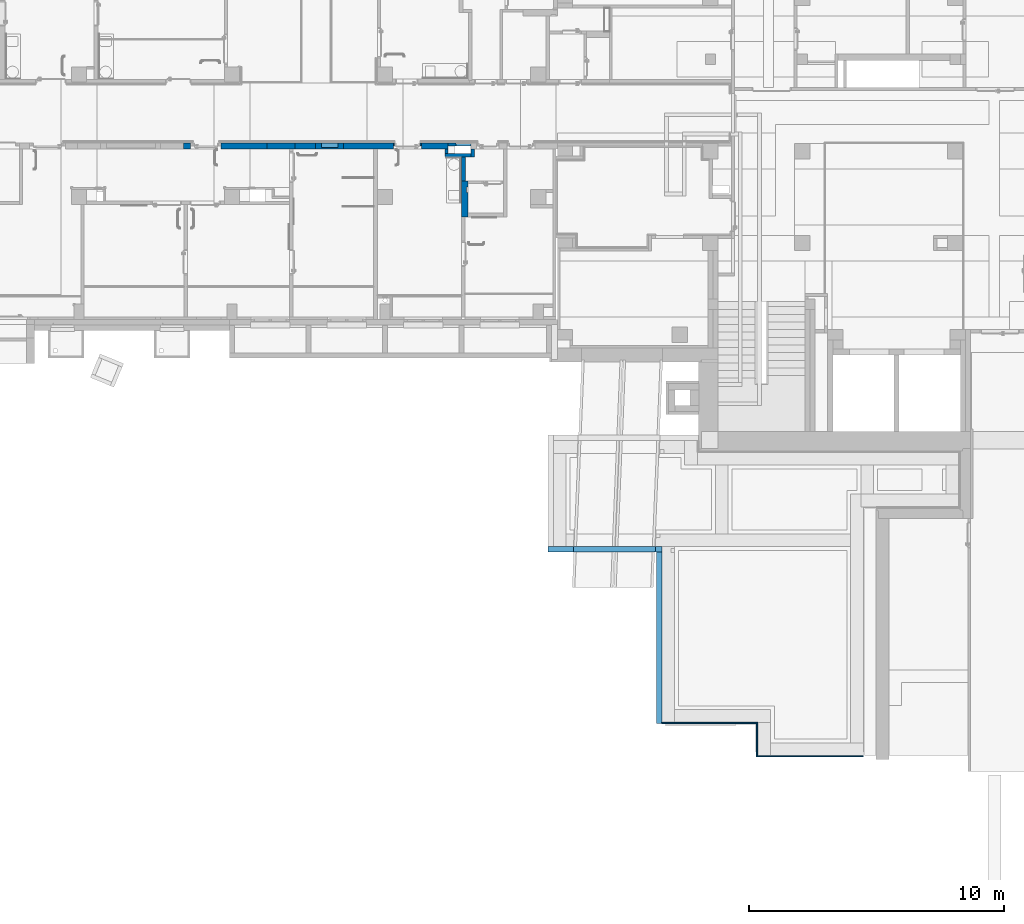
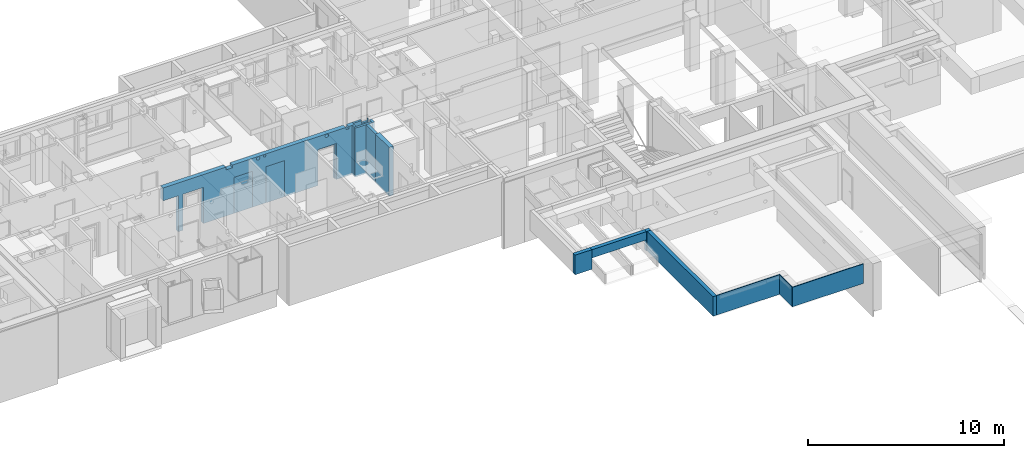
# One storey, part 14 of 84: 17 walls, 16 openings.
"""IFC4 building model written with IfcOpenShell, lengths in metres."""

import ifcopenshell
import ifcopenshell.guid

model = None  # the IFC model being written
_history = None  # IfcOwnerHistory: only IFC2X3 demands one
_inside = {}  # id of a spatial element -> (the spatial element, [elements in it])
_under = {}  # id of a project, library or spatial element -> (it, [spatial elements below it])
_declared = {}  # id of a project -> (the project, [libraries it declares])
_typed = {}  # id of a type object -> (the type object, [elements of that type])
_made_of = {}  # id of a material, layer set ... -> (it, [elements and type objects made of it])


def new_model(schema):
    """Start an empty IFC model of exactly this schema.

    Asked for "IFC4X3", IfcOpenShell would pick the latest addendum, in which some entities
    have other attributes; the version numbers below select the first issue.
    IFC2X3 requires an IfcOwnerHistory on every rooted entity: one is made here for all.
    """
    global model, _history
    if schema == "IFC4X3":
        model = ifcopenshell.file(schema_version=(4, 3, 0, 0))
    else:
        model = ifcopenshell.file(schema=schema)
    _inside.clear()
    _under.clear()
    _declared.clear()
    _typed.clear()
    _made_of.clear()
    _history = None
    if model.schema == "IFC2X3":
        org = make("IfcOrganization", Name="unknown")
        user = make(
            "IfcPersonAndOrganization",
            ThePerson=make("IfcPerson", FamilyName="unknown"),
            TheOrganization=org,
        )
        app = make(
            "IfcApplication",
            ApplicationDeveloper=org,
            Version="unknown",
            ApplicationFullName="unknown",
            ApplicationIdentifier="unknown",
        )
        _history = make(
            "IfcOwnerHistory",
            OwningUser=user,
            OwningApplication=app,
            ChangeAction="ADDED",
            CreationDate=0,
        )
    return model


def make(cls, **values):
    """One entity of the class cls with the attributes given. An attribute that is None is left unset."""
    return model.create_entity(
        cls, **{name: value for name, value in values.items() if value is not None}
    )


def entity(cls, *values):
    """Any entity or typed value of the class cls, its attributes in the order of the schema. None: left unset."""
    e = model.create_entity(cls)
    for i, value in enumerate(values):
        if value is not None:
            e[i] = value
    return e


def rooted(cls, **values):
    """An entity with a GlobalId (a new one), such as an element, a storey or a relation."""
    return make(cls, GlobalId=ifcopenshell.guid.new(), OwnerHistory=_history, **values)


def si_unit(unit_type, name, prefix=None):
    """IfcSIUnit, for example si_unit("LENGTHUNIT", "METRE", prefix="MILLI")."""
    return make("IfcSIUnit", UnitType=unit_type, Prefix=prefix, Name=name)


def converted_unit(unit_type, name, factor, base, dimensions=None, offset=None):
    """IfcConversionBasedUnit, such as the inch: factor (a typed value) times the base unit."""
    return make(
        "IfcConversionBasedUnit"
        if offset is None
        else "IfcConversionBasedUnitWithOffset",
        ConversionOffset=offset,
        Dimensions=None
        if dimensions is None
        else entity("IfcDimensionalExponents", *dimensions),
        UnitType=unit_type,
        Name=name,
        ConversionFactor=make(
            "IfcMeasureWithUnit", ValueComponent=factor, UnitComponent=base
        ),
    )


def derived_unit(unit_type, elements):
    """IfcDerivedUnit: a product of units, each with its exponent."""
    return make(
        "IfcDerivedUnit",
        Elements=[
            make("IfcDerivedUnitElement", Unit=unit, Exponent=power)
            for unit, power in elements
        ],
        UnitType=unit_type,
    )


def assignment(units):
    """IfcUnitAssignment: the units of a project."""
    return None if units is None else make("IfcUnitAssignment", Units=units)


def point(xyz):
    """IfcCartesianPoint."""
    return None if xyz is None else make("IfcCartesianPoint", Coordinates=xyz)


def direction(xyz):
    """IfcDirection."""
    return None if xyz is None else make("IfcDirection", DirectionRatios=xyz)


def frame(location, z_axis=None, x_axis=None):
    """IfcAxis2Placement3D, a coordinate frame: its origin and axes. An axis left out is left unset."""
    return make(
        "IfcAxis2Placement3D",
        Location=point(location),
        Axis=direction(z_axis),
        RefDirection=direction(x_axis),
    )


def frame_2d(location, x_axis=None):
    """IfcAxis2Placement2D, a coordinate frame in the plane: its origin and x axis."""
    return make(
        "IfcAxis2Placement2D", Location=point(location), RefDirection=direction(x_axis)
    )


def origin():
    """The frame at (0, 0, 0) with its axes left unset."""
    return frame((0.0, 0.0, 0.0))


def origin_with_axes():
    """The frame at (0, 0, 0) with the z axis (0, 0, 1) and the x axis (1, 0, 0) written out."""
    return frame((0.0, 0.0, 0.0), z_axis=(0.0, 0.0, 1.0), x_axis=(1.0, 0.0, 0.0))


def place(relative_to, where):
    """IfcLocalPlacement: puts the frame where relative to a parent placement (None: the world)."""
    return make(
        "IfcLocalPlacement", PlacementRelTo=relative_to, RelativePlacement=where
    )


def context(
    kind, dimensions, precision=None, world=None, true_north=None, identifier=None
):
    """IfcGeometricRepresentationContext, for example the 3D "Model" context."""
    return make(
        "IfcGeometricRepresentationContext",
        ContextIdentifier=identifier,
        ContextType=kind,
        CoordinateSpaceDimension=dimensions,
        Precision=precision,
        WorldCoordinateSystem=world,
        TrueNorth=true_north,
    )


def subcontext(parent, identifier, kind, view, scale=None):
    """IfcGeometricRepresentationSubContext, for example "Body" below "Model"."""
    return make(
        "IfcGeometricRepresentationSubContext",
        ContextIdentifier=identifier,
        ContextType=kind,
        ParentContext=parent,
        TargetScale=scale,
        TargetView=view,
    )


def project(units=None, contexts=None):
    """IfcProject with its units and contexts."""
    return rooted(
        "IfcProject",
        Name="project",
        RepresentationContexts=contexts,
        UnitsInContext=assignment(units),
    )


def spatial(cls, under=None, at=None, **own):
    """A site, building, storey or space (cls), placed at a placement, below another one or the project."""
    s = rooted(cls, ObjectPlacement=at, **own)
    if under is not None:
        _under.setdefault(under.id(), (under, []))[1].append(s)
    return s


def polyline(points):
    """IfcPolyline through the points."""
    return make("IfcPolyline", Points=[point(p) for p in points])


def profile(cls, at=None, kind="AREA", **sizes):
    """A parametric profile (cls). Its sizes go by their IFC names, for example OverallWidth=200.0."""
    return make(cls, ProfileType=kind, Position=at, **sizes)


def rectangle(**sizes):
    """IfcRectangleProfileDef."""
    return profile("IfcRectangleProfileDef", **sizes)


def outline(outer, holes=None, kind="AREA"):
    """IfcArbitraryClosedProfileDef: a profile drawn as a closed curve; with holes, ...WithVoids."""
    if holes is None:
        return make("IfcArbitraryClosedProfileDef", ProfileType=kind, OuterCurve=outer)
    return make(
        "IfcArbitraryProfileDefWithVoids",
        ProfileType=kind,
        OuterCurve=outer,
        InnerCurves=holes,
    )


def extrude(swept, where, along, depth):
    """IfcExtrudedAreaSolid: the profile swept, set in the frame where, extruded along a direction by depth."""
    return make(
        "IfcExtrudedAreaSolid",
        SweptArea=swept,
        Position=where,
        ExtrudedDirection=direction(along),
        Depth=depth,
    )


def shape(context_of_items, identifier, shape_type, items):
    """IfcShapeRepresentation: the items that make up one representation, for example the "Body"."""
    return make(
        "IfcShapeRepresentation",
        ContextOfItems=context_of_items,
        RepresentationIdentifier=identifier,
        RepresentationType=shape_type,
        Items=items,
    )


def material(Name=None, Category=None):
    """IfcMaterial."""
    return make("IfcMaterial", Name=Name, Category=Category)


def layer(
    of_material, thickness, ventilated=None, Name=None, Category=None, Priority=None
):
    """IfcMaterialLayer: one layer of a wall or slab, of a material (None: an air gap)."""
    return make(
        "IfcMaterialLayer",
        Material=of_material,
        LayerThickness=thickness,
        IsVentilated=ventilated,
        Name=Name,
        Category=Category,
        Priority=Priority,
    )


def layer_set(layers, Name=None):
    """IfcMaterialLayerSet."""
    return make("IfcMaterialLayerSet", MaterialLayers=layers, LayerSetName=Name)


def layer_usage(for_layer_set, set_direction, sense, offset, extent=None):
    """IfcMaterialLayerSetUsage: how a layer set lies in its element."""
    return make(
        "IfcMaterialLayerSetUsage",
        ForLayerSet=for_layer_set,
        LayerSetDirection=set_direction,
        DirectionSense=sense,
        OffsetFromReferenceLine=offset,
        ReferenceExtent=extent,
    )


def made_of(thing, what):
    """Note that an element or type object is made of a material, layer set ...; save() writes the relation."""
    if what is not None:
        _made_of.setdefault(what.id(), (what, []))[1].append(thing)
    return thing


def element(
    cls,
    number,
    at=None,
    inside=None,
    cuts=None,
    type_object=None,
    material=None,
    context=None,
    identifier="Body",
    shape_type=None,
    held_by="IfcProductDefinitionShape",
    body=None,
    shapes=None,
    **own,
):
    """One element of the class cls, such as IfcWall. Its Tag is "e" and its number.

    at: its placement. inside: the storey or other place that contains it. cuts: it is an
    opening in that element (IfcRelVoidsElement). A single representation is given by context,
    identifier, shape_type and body (its items); several are given by shapes. held_by: the class
    of the entity that holds the representations. save() writes the other relations.
    """
    e = rooted(cls, Tag="e%d" % number, ObjectPlacement=at, **own)
    if body is not None:
        shapes = [shape(context, identifier, shape_type, body)]
    if shapes is not None:
        e.Representation = make(held_by, Representations=shapes)
    if inside is not None:
        _inside.setdefault(inside.id(), (inside, []))[1].append(e)
    if cuts is not None:
        rooted(
            "IfcRelVoidsElement", RelatingBuildingElement=cuts, RelatedOpeningElement=e
        )
    if type_object is not None:
        _typed.setdefault(type_object.id(), (type_object, []))[1].append(e)
    return made_of(e, material)


def aggregate(whole, parts):
    """IfcRelAggregates: a whole, such as a stair, and the parts it consists of."""
    return rooted("IfcRelAggregates", RelatingObject=whole, RelatedObjects=parts)


def save(model, path):
    """Write the relations noted so far, then the file.

    IfcRelAggregates (storeys below a building ...), IfcRelContainedInSpatialStructure (elements
    in a storey), IfcRelDefinesByType, IfcRelAssociatesMaterial and IfcRelDeclares: one each for
    every whole, place, type object, material and project.
    """
    for whole, parts in _under.values():
        aggregate(whole, parts)
    for where, things in _inside.values():
        rooted(
            "IfcRelContainedInSpatialStructure",
            RelatedElements=things,
            RelatingStructure=where,
        )
    for kind, things in _typed.values():
        rooted("IfcRelDefinesByType", RelatedObjects=things, RelatingType=kind)
    for what, things in _made_of.values():
        rooted("IfcRelAssociatesMaterial", RelatedObjects=things, RelatingMaterial=what)
    for by, libraries in _declared.values():
        rooted("IfcRelDeclares", RelatingContext=by, RelatedDefinitions=libraries)
    model.write(path)


model = new_model("IFC4")

# Units and contexts
model_context = context("Model", 3, precision=1e-05, world=origin())
body_context = subcontext(model_context, "Body", "Model", "MODEL_VIEW")
ifc_project = project(units=[si_unit("LENGTHUNIT", "METRE"), si_unit("AREAUNIT", "SQUARE_METRE"), si_unit("VOLUMEUNIT", "CUBIC_METRE"), si_unit("MASSUNIT", "GRAM", prefix="KILO"), converted_unit("PLANEANGLEUNIT", "DEGREE", entity("IfcPlaneAngleMeasure", 0.0174532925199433), si_unit("PLANEANGLEUNIT", "RADIAN"), dimensions=[0, 0, 0, 0, 0, 0, 0]), derived_unit("THERMALTRANSMITTANCEUNIT", [(si_unit("POWERUNIT", "WATT"), 1), (si_unit("THERMODYNAMICTEMPERATUREUNIT", "KELVIN"), -1), (si_unit("LENGTHUNIT", "METRE"), -2)]), derived_unit("VOLUMETRICFLOWRATEUNIT", [(si_unit("LENGTHUNIT", "METRE"), 3), (converted_unit("TIMEUNIT", "hour", entity("IfcTimeMeasure", 3600.0), si_unit("TIMEUNIT", "SECOND"), dimensions=[0, 0, 1, 0, 0, 0, 0]), -1), (si_unit("LENGTHUNIT", "METRE"), -1)])], contexts=[model_context])

# Site, building, storey
site_placement = place(None, origin())
site = spatial("IfcSite", under=ifc_project, at=site_placement, Name="3. ASŘ", CompositionType="ELEMENT")
building_placement = place(site_placement, origin())
building = spatial("IfcBuilding", under=site, at=building_placement, Name="Pavilon C", CompositionType="ELEMENT")
storey_placement = place(building_placement, frame((0.0, 0.0, -3.3)))
storey = spatial("IfcBuildingStorey", under=building, at=storey_placement, Name="Půdorys 1.PP", CompositionType="ELEMENT", Elevation=-3.3)

# Walls
ifc_material_1 = material(Name="ZDIVO Z CDm")
ifc_layer_1 = layer(ifc_material_1, 0.125)
ifc_layer_set_1 = layer_set([ifc_layer_1])
ifc_layer_usage_1 = layer_usage(ifc_layer_set_1, "AXIS2", "POSITIVE", 0.0)
wall_1_placement = place(storey_placement, frame((21.375, 7.275, -0.1), z_axis=(0.0, 0.0, 1.0), x_axis=(0.0, -1.0, 0.0)))
element("IfcWall", 1, at=wall_1_placement, inside=storey, material=ifc_layer_usage_1, Name="ZDIVO Z CDm", context=body_context, shape_type="SweptSolid", body=[
    extrude(rectangle(XDim=0.3, YDim=0.125, at=frame_2d((0.15, 0.0625), x_axis=(1.0, 0.0))), origin_with_axes(), (0.0, 0.0, 1.0), 3.05),
])
ifc_material_2 = material(Name="ZDIVO Z CDm")
ifc_layer_2 = layer(ifc_material_2, 0.125)
ifc_layer_set_2 = layer_set([ifc_layer_2])
ifc_layer_usage_2 = layer_usage(ifc_layer_set_2, "AXIS2", "POSITIVE", 0.0)
wall_2_placement = place(storey_placement, frame((21.375, 7.1, -0.1), z_axis=(0.0, 0.0, 1.0), x_axis=(-1.0, 0.0, 0.0)))
element("IfcWall", 2, at=wall_2_placement, inside=storey, material=ifc_layer_usage_2, Name="ZDIVO Z CDm", context=body_context, shape_type="SweptSolid", body=[
    extrude(rectangle(XDim=1.025, YDim=0.125, at=frame_2d((0.5125, 0.0625), x_axis=(1.0, 0.0))), origin_with_axes(), (0.0, 0.0, 1.0), 3.05),
])

# Wall, openings
ifc_material_3 = material(Name="ZDIVO Z CDm")
ifc_layer_3 = layer(ifc_material_3, 0.125)
ifc_layer_set_3 = layer_set([ifc_layer_3])
ifc_layer_usage_3 = layer_usage(ifc_layer_set_3, "AXIS2", "POSITIVE", 0.0)
wall_3_placement = place(storey_placement, frame((21.375, 7.525, -0.1), z_axis=(0.0, 0.0, 1.0), x_axis=(-1.0, 0.0, 0.0)))
wall_3 = element("IfcWall", 3, at=wall_3_placement, inside=storey, material=ifc_layer_usage_3, Name="ZDIVO Z CDm", context=body_context, shape_type="SweptSolid", body=[
    extrude(rectangle(XDim=0.9, YDim=0.125, at=frame_2d((0.45, 0.0625), x_axis=(1.0, 0.0))), origin_with_axes(), (0.0, 0.0, 1.0), 3.05),
])
opening_1_placement = place(wall_3_placement, frame((0.0149999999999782, 0.0, 2.88), z_axis=(0.0, 1.0, 0.0), x_axis=(0.0, 0.0, 1.0)))
element("IfcOpeningElement", 4, at=opening_1_placement, cuts=wall_3, Name="ZTI", ObjectType="Opening", context=body_context, shape_type="SweptSolid", body=[
    extrude(outline(polyline([(0.0, 0.37), (0.17, 0.37), (0.17, 0.0), (0.0, 0.0), (0.0, 0.37)])), origin_with_axes(), (0.0, 0.0, 1.0), 0.125),
])
opening_2_placement = place(wall_3_placement, frame((0.0, 0.0, 1.1), z_axis=(0.0, 1.0, 0.0), x_axis=(0.0, 0.0, 1.0)))
element("IfcOpeningElement", 5, at=opening_2_placement, cuts=wall_3, Name="Okenní otvor", ObjectType="Opening", context=body_context, shape_type="SweptSolid", body=[
    extrude(outline(polyline([(0.0, 0.6), (1.2, 0.6), (1.2, 0.0), (0.0, 0.0), (0.0, 0.6)])), origin_with_axes(), (0.0, 0.0, 1.0), 0.125),
])

# Wall
ifc_material_4 = material(Name="ZDIVO Z CDm")
ifc_layer_4 = layer(ifc_material_4, 0.125)
ifc_layer_set_4 = layer_set([ifc_layer_4])
ifc_layer_usage_4 = layer_usage(ifc_layer_set_4, "AXIS2", "POSITIVE", 0.0)
wall_4_placement = place(storey_placement, frame((20.475, 7.1, -0.1), z_axis=(0.0, 0.0, 1.0), x_axis=(0.0, 1.0, 0.0)))
element("IfcWall", 6, at=wall_4_placement, inside=storey, material=ifc_layer_usage_4, Name="ZDIVO Z CDm", context=body_context, shape_type="SweptSolid", body=[
    extrude(rectangle(XDim=0.175, YDim=0.125, at=frame_2d((0.0875, 0.0625), x_axis=(1.0, 0.0))), origin_with_axes(), (0.0, 0.0, 1.0), 3.05),
])

# Wall, openings
ifc_material_5 = material(Name="ZDIVO Z CDm")
ifc_layer_5 = layer(ifc_material_5, 0.25)
ifc_layer_set_5 = layer_set([ifc_layer_5])
ifc_layer_usage_5 = layer_usage(ifc_layer_set_5, "AXIS2", "POSITIVE", 0.0)
wall_5_placement = place(storey_placement, frame((20.475, 7.525, -0.1), z_axis=(0.0, 0.0, 1.0), x_axis=(-1.0, 0.0, 0.0)))
wall_5 = element("IfcWall", 7, at=wall_5_placement, inside=storey, material=ifc_layer_usage_5, Name="ZDIVO Z CDm", context=body_context, shape_type="SweptSolid", body=[
    extrude(rectangle(XDim=11.275, YDim=0.25, at=frame_2d((5.6375, 0.125), x_axis=(1.0, 0.0))), origin_with_axes(), (0.0, 0.0, 1.0), 3.05),
])
opening_3_placement = place(wall_5_placement, frame((6.0, 0.0, 0.0), z_axis=(0.0, 1.0, 0.0), x_axis=(0.0, 0.0, 1.0)))
element("IfcOpeningElement", 8, at=opening_3_placement, cuts=wall_5, Name="Dveřní otvor", ObjectType="Opening", context=body_context, shape_type="SweptSolid", body=[
    extrude(outline(polyline([(0.0, 1.1), (2.25, 1.1), (2.25, 0.0), (0.0, 0.0), (0.0, 1.1)])), origin_with_axes(), (0.0, 0.0, 1.0), 0.25),
])
opening_4_placement = place(wall_5_placement, frame((4.1, 0.0, 0.0), z_axis=(0.0, 1.0, 0.0), x_axis=(0.0, 0.0, 1.0)))
element("IfcOpeningElement", 9, at=opening_4_placement, cuts=wall_5, Name="Dveřní otvor", ObjectType="Opening", context=body_context, shape_type="SweptSolid", body=[
    extrude(outline(polyline([(0.0, 1.1), (2.25, 1.1), (2.25, 0.0), (0.0, 0.0), (0.0, 1.1)])), origin_with_axes(), (0.0, 0.0, 1.0), 0.25),
])
opening_5_placement = place(wall_5_placement, frame((10.375, 0.0, 0.0), z_axis=(0.0, 1.0, 0.0), x_axis=(0.0, 0.0, 1.0)))
element("IfcOpeningElement", 10, at=opening_5_placement, cuts=wall_5, Name="Dveřní otvor", ObjectType="Opening", context=body_context, shape_type="SweptSolid", body=[
    extrude(outline(polyline([(0.0, 0.9), (2.25, 0.9), (2.25, 0.0), (0.0, 0.0), (0.0, 0.9)])), origin_with_axes(), (0.0, 0.0, 1.0), 0.25),
])
opening_6_placement = place(wall_5_placement, frame((8.9, 0.0, 0.0), z_axis=(0.0, 1.0, 0.0), x_axis=(0.0, 0.0, 1.0)))
element("IfcOpeningElement", 11, at=opening_6_placement, cuts=wall_5, Name="Dveřní otvor", ObjectType="Opening", context=body_context, shape_type="SweptSolid", body=[
    extrude(outline(polyline([(0.0, 1.2), (2.25, 1.2), (2.25, 0.0), (0.0, 0.0), (0.0, 1.2)])), origin_with_axes(), (0.0, 0.0, 1.0), 0.25),
])
opening_7_placement = place(wall_5_placement, frame((7.55499999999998, 0.25, 2.88), z_axis=(0.0, -1.0, 0.0), x_axis=(0.0, 0.0, 1.0)))
element("IfcOpeningElement", 12, at=opening_7_placement, cuts=wall_5, Name="ZTI", ObjectType="Opening", context=body_context, shape_type="SweptSolid", body=[
    extrude(outline(polyline([(0.0, 0.37), (0.17, 0.37), (0.17, 0.0), (0.0, 0.0), (0.0, 0.37)])), origin_with_axes(), (0.0, 0.0, 1.0), 0.25),
])
opening_8_placement = place(wall_5_placement, frame((5.77390958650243, 0.25, 2.825), z_axis=(0.0, -1.0, 0.0), x_axis=(0.0, 0.0, 1.0)))
element("IfcOpeningElement", 13, at=opening_8_placement, cuts=wall_5, Name="VZT", ObjectType="Opening", context=body_context, shape_type="SweptSolid", body=[
    extrude(outline(polyline([(0.105, 0.0), (0.0940245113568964, 0.000575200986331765), (0.0831692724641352, 0.0022945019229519), (0.0725532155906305, 0.00513906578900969), (0.062292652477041, 0.00907772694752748), (0.0525, 0.0140673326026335), (0.0432825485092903, 0.0200532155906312), (0.0347412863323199, 0.0269697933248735), (0.0269697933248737, 0.0347412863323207), (0.0200532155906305, 0.0432825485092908), (0.014067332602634, 0.0525), (0.00907772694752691, 0.0622926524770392), (0.0051390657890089, 0.0725532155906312), (0.00229450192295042, 0.0831692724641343), (0.000575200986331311, 0.0940245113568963), (0.0, 0.105), (0.000575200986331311, 0.115975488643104), (0.00229450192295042, 0.126830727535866), (0.0051390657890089, 0.137446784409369), (0.00907772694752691, 0.147707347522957), (0.014067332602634, 0.1575), (0.0200532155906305, 0.166717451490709), (0.0269697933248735, 0.175258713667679), (0.0347412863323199, 0.183030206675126), (0.0432825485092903, 0.189946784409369), (0.0525, 0.195932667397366), (0.062292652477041, 0.200922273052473), (0.0725532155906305, 0.20486093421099), (0.0831692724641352, 0.20770549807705), (0.0940245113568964, 0.209424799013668), (0.105, 0.21), (0.115975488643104, 0.209424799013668), (0.126830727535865, 0.20770549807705), (0.137446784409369, 0.20486093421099), (0.147707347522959, 0.200922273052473), (0.1575, 0.195932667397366), (0.16671745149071, 0.189946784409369), (0.17525871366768, 0.183030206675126), (0.183030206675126, 0.175258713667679), (0.189946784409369, 0.166717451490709), (0.195932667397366, 0.1575), (0.200922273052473, 0.147707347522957), (0.204860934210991, 0.137446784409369), (0.20770549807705, 0.126830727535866), (0.209424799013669, 0.115975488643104), (0.21, 0.105), (0.209424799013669, 0.0940245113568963), (0.20770549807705, 0.0831692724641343), (0.204860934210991, 0.0725532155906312), (0.200922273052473, 0.0622926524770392), (0.195932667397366, 0.0525), (0.18994678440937, 0.0432825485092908), (0.183030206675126, 0.0347412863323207), (0.17525871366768, 0.0269697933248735), (0.16671745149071, 0.0200532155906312), (0.1575, 0.0140673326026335), (0.147707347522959, 0.00907772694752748), (0.13744678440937, 0.00513906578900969), (0.126830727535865, 0.0022945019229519), (0.115975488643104, 0.000575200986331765), (0.105, 0.0)])), origin_with_axes(), (0.0, 0.0, 1.0), 0.25),
])
opening_9_placement = place(wall_5_placement, frame((5.20807611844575, 0.0, 2.875), z_axis=(0.0, 1.0, 0.0), x_axis=(0.0, 0.0, 1.0)))
element("IfcOpeningElement", 14, at=opening_9_placement, cuts=wall_5, Name="CHL", ObjectType="Opening", context=body_context, shape_type="SweptSolid", body=[
    extrude(outline(polyline([(0.075, 0.15), (0.082839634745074, 0.149589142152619), (0.0905933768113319, 0.148361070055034), (0.0981762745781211, 0.146329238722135), (0.105505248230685, 0.143515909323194), (0.1125, 0.139951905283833), (0.119083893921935, 0.13567627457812), (0.125184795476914, 0.130735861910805), (0.130735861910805, 0.125184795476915), (0.135676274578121, 0.119083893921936), (0.139951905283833, 0.1125), (0.143515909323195, 0.105505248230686), (0.146329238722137, 0.0981762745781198), (0.148361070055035, 0.0905933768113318), (0.149589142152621, 0.0828396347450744), (0.15, 0.075), (0.149589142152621, 0.0671603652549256), (0.148361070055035, 0.0594066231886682), (0.146329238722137, 0.0518237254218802), (0.143515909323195, 0.0444947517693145), (0.139951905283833, 0.0374999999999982), (0.135676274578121, 0.0309161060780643), (0.130735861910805, 0.0248152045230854), (0.125184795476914, 0.0192641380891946), (0.119083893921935, 0.0143237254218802), (0.1125, 0.0100480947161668), (0.105505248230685, 0.00648409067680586), (0.0981762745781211, 0.00367076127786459), (0.0905933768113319, 0.00163892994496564), (0.082839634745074, 0.000410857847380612), (0.075, 0.0), (0.067160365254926, 0.000410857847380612), (0.0594066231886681, 0.00163892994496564), (0.0518237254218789, 0.00367076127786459), (0.044494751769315, 0.00648409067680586), (0.0375, 0.0100480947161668), (0.0309161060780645, 0.0143237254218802), (0.0248152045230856, 0.0192641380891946), (0.0192641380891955, 0.0248152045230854), (0.0143237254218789, 0.0309161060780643), (0.0100480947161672, 0.0374999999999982), (0.00648409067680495, 0.0444947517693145), (0.00367076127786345, 0.0518237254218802), (0.00163892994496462, 0.0594066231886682), (0.000410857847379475, 0.0671603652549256), (0.0, 0.075), (0.000410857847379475, 0.0828396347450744), (0.00163892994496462, 0.0905933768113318), (0.00367076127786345, 0.0981762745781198), (0.00648409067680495, 0.105505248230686), (0.0100480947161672, 0.1125), (0.0143237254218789, 0.119083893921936), (0.0192641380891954, 0.125184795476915), (0.0248152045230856, 0.130735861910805), (0.0309161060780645, 0.13567627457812), (0.0375, 0.139951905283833), (0.044494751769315, 0.143515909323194), (0.0518237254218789, 0.146329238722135), (0.0594066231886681, 0.148361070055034), (0.067160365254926, 0.149589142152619), (0.075, 0.15)])), origin_with_axes(), (0.0, 0.0, 1.0), 0.25),
])
opening_10_placement = place(wall_5_placement, frame((1.05, 0.0, 0.0), z_axis=(0.0, 1.0, 0.0), x_axis=(0.0, 0.0, 1.0)))
element("IfcOpeningElement", 15, at=opening_10_placement, cuts=wall_5, Name="Dveřní otvor", ObjectType="Opening", context=body_context, shape_type="SweptSolid", body=[
    extrude(outline(polyline([(0.0, 1.1), (2.25, 1.1), (2.25, 0.0), (0.0, 0.0), (0.0, 1.1)])), origin_with_axes(), (0.0, 0.0, 1.0), 0.25),
])
opening_11_placement = place(wall_5_placement, frame((1.71838553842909, 0.25, 2.825), z_axis=(0.0, -1.0, 0.0), x_axis=(0.0, 0.0, 1.0)))
element("IfcOpeningElement", 16, at=opening_11_placement, cuts=wall_5, Name="VZT", ObjectType="Opening", context=body_context, shape_type="SweptSolid", body=[
    extrude(outline(polyline([(0.105, 0.0), (0.0940245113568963, 0.000575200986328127), (0.0831692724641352, 0.0022945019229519), (0.0725532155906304, 0.00513906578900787), (0.062292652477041, 0.00907772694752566), (0.0525, 0.0140673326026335), (0.0432825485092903, 0.0200532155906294), (0.0347412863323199, 0.0269697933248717), (0.0269697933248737, 0.0347412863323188), (0.0200532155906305, 0.0432825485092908), (0.014067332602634, 0.0524999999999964), (0.00907772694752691, 0.062292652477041), (0.0051390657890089, 0.0725532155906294), (0.00229450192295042, 0.0831692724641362), (0.000575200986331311, 0.0940245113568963), (0.0, 0.105), (0.000575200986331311, 0.115975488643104), (0.00229450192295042, 0.126830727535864), (0.0051390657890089, 0.137446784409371), (0.00907772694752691, 0.147707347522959), (0.014067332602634, 0.1575), (0.0200532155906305, 0.166717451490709), (0.0269697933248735, 0.175258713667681), (0.0347412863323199, 0.183030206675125), (0.0432825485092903, 0.189946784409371), (0.0525, 0.195932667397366), (0.062292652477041, 0.200922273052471), (0.0725532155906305, 0.204860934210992), (0.0831692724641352, 0.207705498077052), (0.0940245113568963, 0.209424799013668), (0.105, 0.21), (0.115975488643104, 0.209424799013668), (0.126830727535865, 0.207705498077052), (0.137446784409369, 0.204860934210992), (0.147707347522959, 0.200922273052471), (0.1575, 0.195932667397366), (0.16671745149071, 0.189946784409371), (0.17525871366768, 0.183030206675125), (0.183030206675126, 0.175258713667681), (0.189946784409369, 0.166717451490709), (0.195932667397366, 0.1575), (0.200922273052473, 0.147707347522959), (0.204860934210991, 0.137446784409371), (0.20770549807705, 0.126830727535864), (0.209424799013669, 0.115975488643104), (0.21, 0.105), (0.209424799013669, 0.0940245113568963), (0.20770549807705, 0.0831692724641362), (0.204860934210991, 0.0725532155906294), (0.200922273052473, 0.062292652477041), (0.195932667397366, 0.0524999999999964), (0.189946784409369, 0.0432825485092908), (0.183030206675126, 0.0347412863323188), (0.17525871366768, 0.0269697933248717), (0.16671745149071, 0.0200532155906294), (0.1575, 0.0140673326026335), (0.147707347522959, 0.00907772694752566), (0.137446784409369, 0.00513906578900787), (0.126830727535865, 0.0022945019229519), (0.115975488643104, 0.000575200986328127), (0.105, 0.0)])), origin_with_axes(), (0.0, 0.0, 1.0), 0.25),
])
opening_12_placement = place(wall_5_placement, frame((0.493437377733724, 0.250000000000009, 2.9), z_axis=(0.0, -1.0, 0.0), x_axis=(0.0, 0.0, 1.0)))
element("IfcOpeningElement", 17, at=opening_12_placement, cuts=wall_5, Name="ZTI", ObjectType="Opening", context=body_context, shape_type="SweptSolid", body=[
    extrude(outline(polyline([(0.0, 0.175), (0.15, 0.175), (0.15, 0.0), (0.0, 0.0), (0.0, 0.175)])), origin_with_axes(), (0.0, 0.0, 1.0), 0.25),
])

# Walls
ifc_material_6 = material(Name="PERIMETR")
ifc_layer_6 = layer(ifc_material_6, 0.22)
ifc_layer_set_6 = layer_set([ifc_layer_6])
ifc_layer_usage_6 = layer_usage(ifc_layer_set_6, "AXIS2", "POSITIVE", 0.0)
wall_6_placement = place(storey_placement, frame((25.3845188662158, -8.30000000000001, 1.8), z_axis=(0.0, 0.0, 1.0), x_axis=(-1.0, 0.0, 0.0)))
element("IfcWall", 18, at=wall_6_placement, inside=storey, material=ifc_layer_usage_6, Name="PERIMETR", context=body_context, shape_type="SweptSolid", body=[
    extrude(outline(polyline([(-1.0045188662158, -0.22), (0.0, -0.22), (0.0, 0.0), (-0.99537403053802, 0.0), (-1.0045188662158, -0.22)])), frame((1.0045188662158, 0.22, 0.0), z_axis=(0.0, 0.0, 1.0), x_axis=(1.0, 0.0, 0.0)), (0.0, 0.0, 1.0), 1.22),
])
ifc_material_7 = material(Name="PERIMETR")
ifc_layer_7 = layer(ifc_material_7, 0.22)
ifc_layer_set_7 = layer_set([ifc_layer_7])
ifc_layer_usage_7 = layer_usage(ifc_layer_set_7, "AXIS2", "POSITIVE", 0.0)
wall_7_placement = place(storey_placement, frame((28.5972563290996, -8.30000000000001, 2.5), z_axis=(0.0, 0.0, 1.0), x_axis=(-1.0, 0.0, 0.0)))
element("IfcWall", 19, at=wall_7_placement, inside=storey, material=ifc_layer_usage_7, Name="PERIMETR", context=body_context, shape_type="SweptSolid", body=[
    extrude(outline(polyline([(-3.22188229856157, -0.22), (-0.0091448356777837, -0.22), (0.0, 0.0), (-3.21273746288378, 0.0), (-3.22188229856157, -0.22)])), frame((3.22188229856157, 0.22, 0.0), z_axis=(0.0, 0.0, 1.0), x_axis=(1.0, 0.0, 0.0)), (0.0, 0.0, 1.0), 0.52),
])
ifc_material_8 = material(Name="PERIMETR")
ifc_layer_8 = layer(ifc_material_8, 0.22)
ifc_layer_set_8 = layer_set([ifc_layer_8])
ifc_layer_usage_8 = layer_usage(ifc_layer_set_8, "AXIS2", "POSITIVE", 0.0)
wall_8_placement = place(storey_placement, frame((28.85, -8.30000000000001, 1.8), z_axis=(0.0, 0.0, 1.0), x_axis=(-1.0, 0.0, 0.0)))
element("IfcWall", 20, at=wall_8_placement, inside=storey, material=ifc_layer_usage_8, Name="PERIMETR", context=body_context, shape_type="SweptSolid", body=[
    extrude(outline(polyline([(-0.261888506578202, -0.22), (-0.0091448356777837, -0.22), (0.0, 0.0), (-0.261888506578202, 0.0), (-0.261888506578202, -0.22)])), frame((0.261888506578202, 0.22, 0.0), z_axis=(0.0, 0.0, 1.0), x_axis=(1.0, 0.0, 0.0)), (0.0, 0.0, 1.0), 1.22),
])
ifc_material_9 = material(Name="PERIMETR")
ifc_layer_9 = layer(ifc_material_9, 0.22)
ifc_layer_set_9 = layer_set([ifc_layer_9])
ifc_layer_usage_9 = layer_usage(ifc_layer_set_9, "AXIS2", "POSITIVE", 0.0)
wall_9_placement = place(storey_placement, frame((28.85, -15.245, 1.8), z_axis=(0.0, 0.0, 1.0), x_axis=(0.0, 1.0, 0.0)))
element("IfcWall", 21, at=wall_9_placement, inside=storey, material=ifc_layer_usage_9, Name="PERIMETR", context=body_context, shape_type="SweptSolid", body=[
    extrude(rectangle(XDim=6.725, YDim=0.22, at=frame_2d((3.3625, 0.11), x_axis=(1.0, 0.0))), origin_with_axes(), (0.0, 0.0, 1.0), 1.22),
])
ifc_material_10 = material(Name="PERIMETR")
ifc_layer_10 = layer(ifc_material_10, 0.05)
ifc_layer_set_10 = layer_set([ifc_layer_10])
ifc_layer_usage_10 = layer_usage(ifc_layer_set_10, "AXIS2", "POSITIVE", 0.0)
wall_10_placement = place(storey_placement, frame((32.555, -15.195, 1.8), z_axis=(0.0, 0.0, 1.0), x_axis=(-1.0, 0.0, 0.0)))
element("IfcWall", 22, at=wall_10_placement, inside=storey, material=ifc_layer_usage_10, Name="PERIMETR", context=body_context, shape_type="SweptSolid", body=[
    extrude(rectangle(XDim=3.705, YDim=0.05, at=frame_2d((1.8525, 0.025), x_axis=(1.0, 0.0))), origin_with_axes(), (0.0, 0.0, 1.0), 1.22),
])
ifc_material_11 = material(Name="PERIMETR")
ifc_layer_11 = layer(ifc_material_11, 0.05)
ifc_layer_set_11 = layer_set([ifc_layer_11])
ifc_layer_usage_11 = layer_usage(ifc_layer_set_11, "AXIS2", "POSITIVE", 0.0)
wall_11_placement = place(storey_placement, frame((32.605, -16.495, 1.8), z_axis=(0.0, 0.0, 1.0), x_axis=(0.0, 1.0, 0.0)))
element("IfcWall", 23, at=wall_11_placement, inside=storey, material=ifc_layer_usage_11, Name="PERIMETR", context=body_context, shape_type="SweptSolid", body=[
    extrude(rectangle(XDim=1.3, YDim=0.05, at=frame_2d((0.649999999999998, 0.025), x_axis=(1.0, 0.0))), origin_with_axes(), (0.0, 0.0, 1.0), 1.22),
])
ifc_material_12 = material(Name="PERIMETR")
ifc_layer_12 = layer(ifc_material_12, 0.05)
ifc_layer_set_12 = layer_set([ifc_layer_12])
ifc_layer_usage_12 = layer_usage(ifc_layer_set_12, "AXIS2", "POSITIVE", 0.0)
wall_12_placement = place(storey_placement, frame((36.75, -16.495, 1.8), z_axis=(0.0, 0.0, 1.0), x_axis=(-1.0, 0.0, 0.0)))
element("IfcWall", 24, at=wall_12_placement, inside=storey, material=ifc_layer_usage_12, Name="PERIMETR", context=body_context, shape_type="SweptSolid", body=[
    extrude(rectangle(XDim=4.195, YDim=0.05, at=frame_2d((2.0975, 0.025), x_axis=(1.0, 0.0))), origin_with_axes(), (0.0, 0.0, 1.0), 1.22),
])
ifc_material_13 = material(Name="YTONG 250")
ifc_layer_13 = layer(ifc_material_13, 0.25)
ifc_layer_set_13 = layer_set([ifc_layer_13])
ifc_layer_usage_13 = layer_usage(ifc_layer_set_13, "AXIS2", "POSITIVE", 0.0)
wall_13_placement = place(storey_placement, frame((13.375, 7.275, -0.1)))
element("IfcWall", 25, at=wall_13_placement, inside=storey, material=ifc_layer_usage_13, Name="YTONG 250", context=body_context, shape_type="SweptSolid", body=[
    extrude(rectangle(XDim=1.1, YDim=0.25, at=frame_2d((0.55, 0.125), x_axis=(1.0, 0.0))), origin_with_axes(), (0.0, 0.0, 1.0), 2.25),
])

# Wall, openings
ifc_material_14 = material(Name="YTONG 250")
ifc_layer_14 = layer(ifc_material_14, 0.25)
ifc_layer_set_14 = layer_set([ifc_layer_14])
ifc_layer_usage_14 = layer_usage(ifc_layer_set_14, "AXIS2", "POSITIVE", 0.0)
wall_14_placement = place(storey_placement, frame((15.275, 7.275, -0.1)))
wall_14 = element("IfcWall", 26, at=wall_14_placement, inside=storey, material=ifc_layer_usage_14, Name="YTONG 250", context=body_context, shape_type="SweptSolid", body=[
    extrude(rectangle(XDim=1.1, YDim=0.25, at=frame_2d((0.55, 0.125), x_axis=(1.0, 0.0))), origin_with_axes(), (0.0, 0.0, 1.0), 2.25),
])
opening_13_placement = place(wall_14_placement, frame((0.875, 0.25, 1.1), z_axis=(0.0, -1.0, 0.0), x_axis=(0.0, 0.0, 1.0)))
element("IfcOpeningElement", 27, at=opening_13_placement, cuts=wall_14, Name="Stěnová nika", ObjectType="Opening", context=body_context, shape_type="SweptSolid", body=[
    extrude(outline(polyline([(0.0, 0.65), (0.65, 0.65), (0.65, 0.0), (0.0, 0.0), (0.0, 0.65)])), origin_with_axes(), (0.0, 0.0, 1.0), 0.175),
])
opening_14_placement = place(wall_14_placement, frame((0.357249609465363, 0.0, 2.775), z_axis=(0.0, 1.0, 0.0), x_axis=(0.0, 0.0, 1.0)))
element("IfcOpeningElement", 28, at=opening_14_placement, cuts=wall_14, Name="VZT", ObjectType="Opening", context=body_context, shape_type="SweptSolid", body=[
    extrude(outline(polyline([(0.104999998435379, 0.0), (0.0940245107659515, 0.000575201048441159), (0.0831692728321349, 0.00229450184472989), (0.0725532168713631, 0.00513906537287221), (0.0622926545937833, 0.0090777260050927), (0.0525000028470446, 0.014067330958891), (0.0432825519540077, 0.0200532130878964), (0.0347412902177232, 0.0269697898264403), (0.0269697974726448, 0.0347412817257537), (0.0200532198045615, 0.0432825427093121), (0.0140673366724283, 0.0524999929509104), (0.00907773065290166, 0.0622926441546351), (0.00513906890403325, 0.0725532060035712), (0.00229450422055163, 0.0831692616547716), (0.000575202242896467, 0.0940244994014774), (0.0, 0.104999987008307), (0.000575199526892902, 0.115975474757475), (0.00229449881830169, 0.126830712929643), (0.00513906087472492, 0.137446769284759), (0.00907772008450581, 0.147707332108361), (0.0140673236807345, 0.157499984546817), (0.0200532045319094, 0.166717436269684), (0.0269697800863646, 0.175258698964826), (0.0347412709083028, 0.183030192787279), (0.043282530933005, 0.18994677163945), (0.0524999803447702, 0.195932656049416), (0.0622926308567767, 0.20092226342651), (0.0725531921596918, 0.204860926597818), (0.0831692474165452, 0.207705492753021), (0.0940244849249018, 0.209424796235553), (0.104999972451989, 0.21), (0.115975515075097, 0.209424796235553), (0.126830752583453, 0.207705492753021), (0.137446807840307, 0.204860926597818), (0.147707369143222, 0.20092226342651), (0.157500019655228, 0.195932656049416), (0.166717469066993, 0.18994677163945), (0.175258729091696, 0.183030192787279), (0.183030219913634, 0.175258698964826), (0.189946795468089, 0.166717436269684), (0.195932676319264, 0.157499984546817), (0.200922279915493, 0.147707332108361), (0.204860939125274, 0.137446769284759), (0.207705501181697, 0.126830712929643), (0.209424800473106, 0.115975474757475), (0.209999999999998, 0.104999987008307), (0.209424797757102, 0.0940244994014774), (0.207705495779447, 0.0831692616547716), (0.204860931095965, 0.0725532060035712), (0.200922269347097, 0.0622926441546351), (0.19593266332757, 0.0524999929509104), (0.189946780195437, 0.0432825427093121), (0.183030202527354, 0.0347412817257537), (0.175258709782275, 0.0269697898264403), (0.166717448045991, 0.0200532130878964), (0.157499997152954, 0.014067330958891), (0.147707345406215, 0.0090777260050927), (0.137446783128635, 0.00513906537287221), (0.126830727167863, 0.00229450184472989), (0.115975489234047, 0.000575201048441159), (0.104999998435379, 0.0)])), origin_with_axes(), (0.0, 0.0, 1.0), 0.25),
])

# Wall, opening
ifc_material_15 = material(Name="YTONG 125")
ifc_layer_15 = layer(ifc_material_15, 0.125)
ifc_layer_set_15 = layer_set([ifc_layer_15])
ifc_layer_usage_15 = layer_usage(ifc_layer_set_15, "AXIS2", "POSITIVE", 0.0)
wall_15_placement = place(storey_placement, frame((19.425, 7.525, -0.1), z_axis=(0.0, 0.0, 1.0), x_axis=(-1.0, 0.0, 0.0)))
wall_15 = element("IfcWall", 29, at=wall_15_placement, inside=storey, material=ifc_layer_usage_15, Name="YTONG 125", context=body_context, shape_type="SweptSolid", body=[
    extrude(rectangle(XDim=1.1, YDim=0.125, at=frame_2d((0.55, 0.0625), x_axis=(1.0, 0.0))), origin_with_axes(), (0.0, 0.0, 1.0), 2.25),
])
opening_15_placement = place(wall_15_placement, frame((1.05, 0.125, 0.0), z_axis=(0.0, -1.0, 0.0), x_axis=(0.0, 0.0, 1.0)))
element("IfcOpeningElement", 30, at=opening_15_placement, cuts=wall_15, Name="Dveřní otvor", ObjectType="Opening", context=body_context, shape_type="SweptSolid", body=[
    extrude(outline(polyline([(0.0, 1.0), (2.12, 1.0), (2.12, 0.0), (0.0, 0.0), (0.0, 1.0)])), origin_with_axes(), (0.0, 0.0, 1.0), 0.125),
])

# Wall
ifc_material_16 = material(Name="SDK - 1 KCE + DVOJITÉ OPLÁŠTĚNÍ")
ifc_layer_16 = layer(ifc_material_16, 0.15)
ifc_layer_set_16 = layer_set([ifc_layer_16])
ifc_layer_usage_16 = layer_usage(ifc_layer_set_16, "AXIS2", "POSITIVE", 0.0)
wall_16_placement = place(storey_placement, frame((21.15, 6.025, -0.1), z_axis=(0.0, 0.0, 1.0), x_axis=(0.0, 1.0, 0.0)))
element("IfcWall", 31, at=wall_16_placement, inside=storey, material=ifc_layer_usage_16, Name="SDK - 1 KCE + DVOJITÉ OPLÁŠTĚNÍ", context=body_context, shape_type="SweptSolid", body=[
    extrude(rectangle(XDim=0.950000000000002, YDim=0.15, at=frame_2d((0.475000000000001, 0.075), x_axis=(1.0, 0.0))), origin_with_axes(), (0.0, 0.0, 1.0), 3.05),
])

# Wall, opening
ifc_material_17 = material(Name="SDK - 2 KCE + DVOJITÉ OPLÁŠTĚNÍ")
ifc_layer_17 = layer(ifc_material_17, 0.25)
ifc_layer_set_17 = layer_set([ifc_layer_17])
ifc_layer_usage_17 = layer_usage(ifc_layer_set_17, "AXIS2", "POSITIVE", 0.0)
wall_17_placement = place(storey_placement, frame((21.25, 4.625, -0.1), z_axis=(0.0, 0.0, 1.0), x_axis=(0.0, 1.0, 0.0)))
wall_17 = element("IfcWall", 32, at=wall_17_placement, inside=storey, material=ifc_layer_usage_17, Name="SDK - 2 KCE + DVOJITÉ OPLÁŠTĚNÍ", context=body_context, shape_type="SweptSolid", body=[
    extrude(rectangle(XDim=1.4, YDim=0.25, at=frame_2d((0.7, 0.125), x_axis=(1.0, 0.0))), origin_with_axes(), (0.0, 0.0, 1.0), 3.05),
])
opening_16_placement = place(wall_17_placement, frame((0.96, 0.0, 1.1), z_axis=(0.0, 1.0, 0.0), x_axis=(0.0, 0.0, 1.0)))
element("IfcOpeningElement", 33, at=opening_16_placement, cuts=wall_17, Name="Stěnová nika", ObjectType="Opening", context=body_context, shape_type="SweptSolid", body=[
    extrude(outline(polyline([(0.0, 0.2), (0.2, 0.2), (0.2, 0.0), (0.0, 0.0), (0.0, 0.2)])), origin_with_axes(), (0.0, 0.0, 1.0), 0.05),
])

save(model, "model.ifc")
